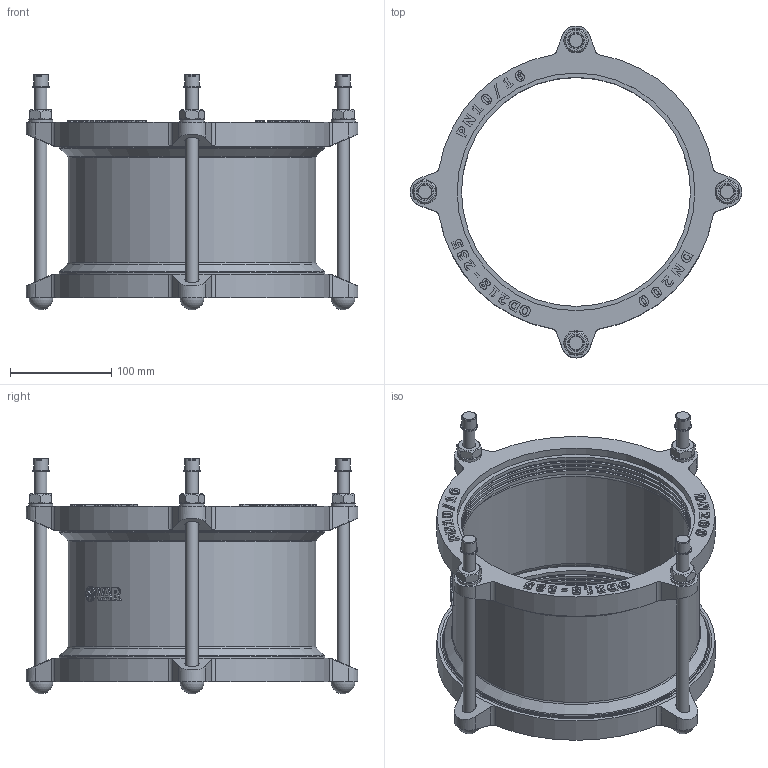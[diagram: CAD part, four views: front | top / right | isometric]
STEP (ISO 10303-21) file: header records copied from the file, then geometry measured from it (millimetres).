
FILE_DESCRIPTION(('STEP AP203'), '1');
FILE_NAME('Cîåäèíèòåëüíàÿ ìóôòà äëÿ æåñòêèõ òðóá', '', ('UNSPECIFIED'), ('UNSPECIFIED'), 'C3D Converter', 'C3D Toolkit', '');
FILE_SCHEMA(('CONFIG_CONTROL_DESIGN'));
Length unit declared in the file: millimetre
Assembly tree (21 placements, depth 2):
  (unnamed)
    (unnamed)
    (unnamed)  x4
    (unnamed)  x4
    (unnamed)  x4
    (unnamed)  x4
    (unnamed)
    (unnamed)
    (unnamed)  x2
Bounding box: 328 x 328 x 233.2 mm (x, y, z)
Volume: 1599700.9 mm3; surface area: 573606.3 mm2
Topology: 25 solids, 25 shells, 810 faces, 2053 edges, 1350 vertices
Faces by surface type: extrusion 358, plane 287, cylinder 105, cone 34, torus 22, sphere 4
Full cylindrical faces by diameter (mm): 12 x12, 13 x4, 14 x8, 14.4 x4, 14.703 x1, 16.8 x4, 24 x4, 226.5 x8, 230.75 x6, 235 x3, 240 x2, 245 x3, 262.5 x2, 265 x4
Entity records: 32234 total; most frequent: CARTESIAN_POINT 11376, ORIENTED_EDGE 3574, DIRECTION 2229, EDGE_CURVE 1787, VERTEX_POINT 1220, VECTOR 1173, B_SPLINE_CURVE_WITH_KNOTS 1137, EDGE_LOOP 847
